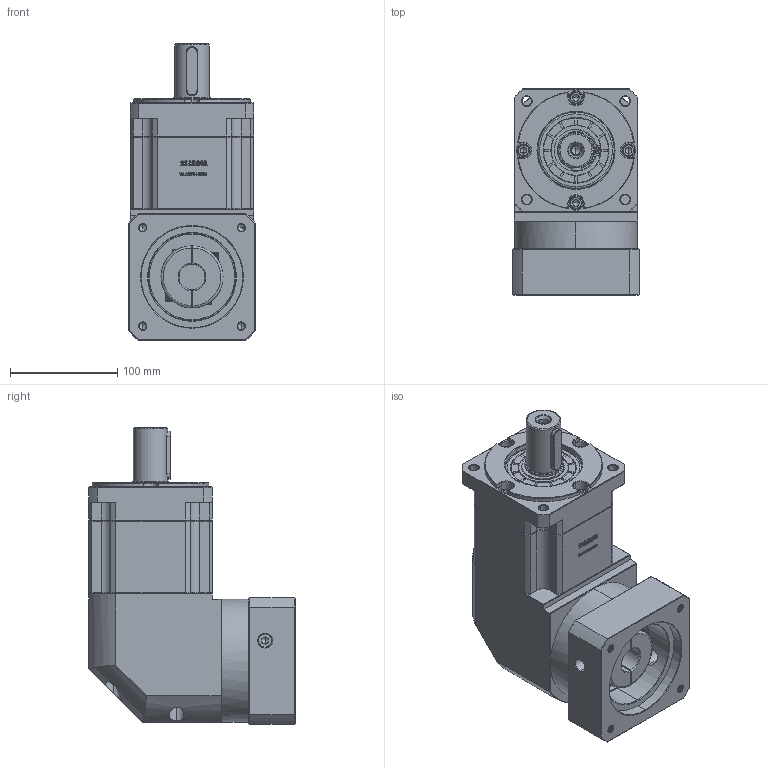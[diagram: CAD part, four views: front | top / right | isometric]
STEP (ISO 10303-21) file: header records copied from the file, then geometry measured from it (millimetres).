
FILE_DESCRIPTION (( 'STEP AP214' ), '1' );
FILE_NAME ('ZBR115A-D32-L2-24-95-130-M8.step', '2023-03-03T05:02:48', ( '' ), ( 'Microsoft' ), 'SwSTEP 2.0', 'SolidWorks 2016', '' );
FILE_SCHEMA (( 'AUTOMOTIVE_DESIGN' ));
Length unit declared in the file: millimetre
Products named in the file (1): ZBR115A-D32-L2-24-95-130-M8
Bounding box: 118 x 192.4 x 276.5 mm (x, y, z)
Volume: 3303094.2 mm3; surface area: 259817.9 mm2
Topology: 6 solids, 6 shells, 2982 faces, 7923 edges, 5087 vertices
Faces by surface type: plane 1559, bspline 606, cylinder 439, cone 370, torus 8
Entity records: 162116 total; most frequent: CARTESIAN_POINT 60064, ORIENTED_EDGE 15786, DIRECTION 11958, EDGE_CURVE 7893, LINE 5308, VECTOR 5308, VERTEX_POINT 5087, AXIS2_PLACEMENT_3D 3325
